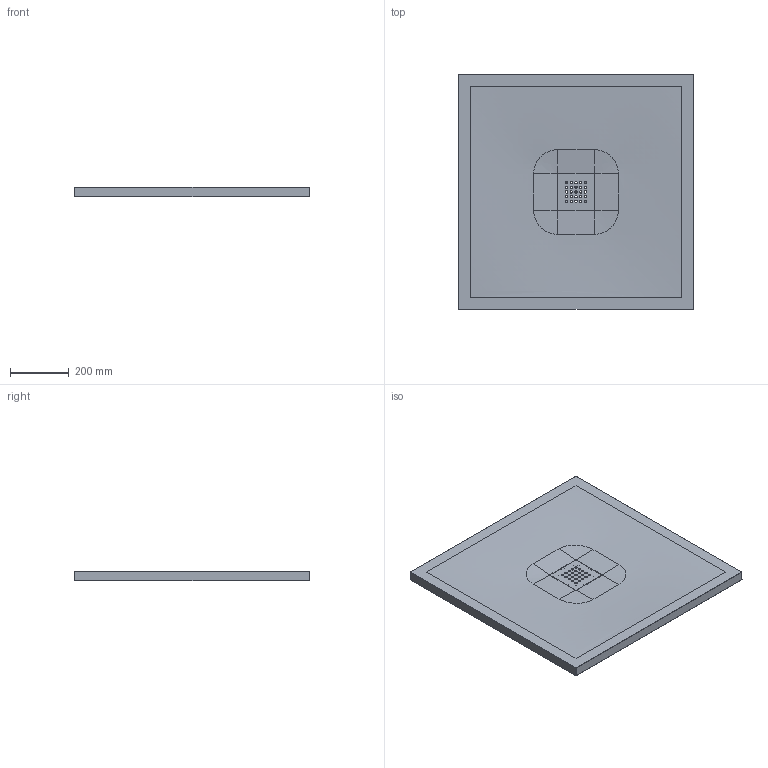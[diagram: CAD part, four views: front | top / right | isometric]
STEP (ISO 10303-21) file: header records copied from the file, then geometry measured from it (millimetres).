
FILE_DESCRIPTION(/* description */ (''),/* implementation_level */ '2;1');
FILE_NAME(/* name */ '800X800',/* time_stamp */ '2024-04-17T11:15:42+02:00',/* author */ (''),/* organization */ (''),/* preprocessor_version */ 'ST-DEVELOPER v16.5',/* originating_system */ 'Rhino 7.36',/* authorisation */ '');
FILE_SCHEMA (('CONFIG_CONTROL_DESIGN'));
Length unit declared in the file: millimetre
Products named in the file (1): Document
Bounding box: 799.98 x 799.98 x 33 mm (x, y, z)
Volume: 18415561.3 mm3; surface area: 1401590.5 mm2
Topology: 2 solids, 2 shells, 120 faces, 312 edges, 192 vertices
Faces by surface type: cylinder 74, plane 25, bspline 21
Entity records: 15648 total; most frequent: CARTESIAN_POINT 13574, ORIENTED_EDGE 608, EDGE_CURVE 304, VERTEX_POINT 192, EDGE_LOOP 176, ADVANCED_FACE 120, FACE_OUTER_BOUND 120, DIRECTION 103
